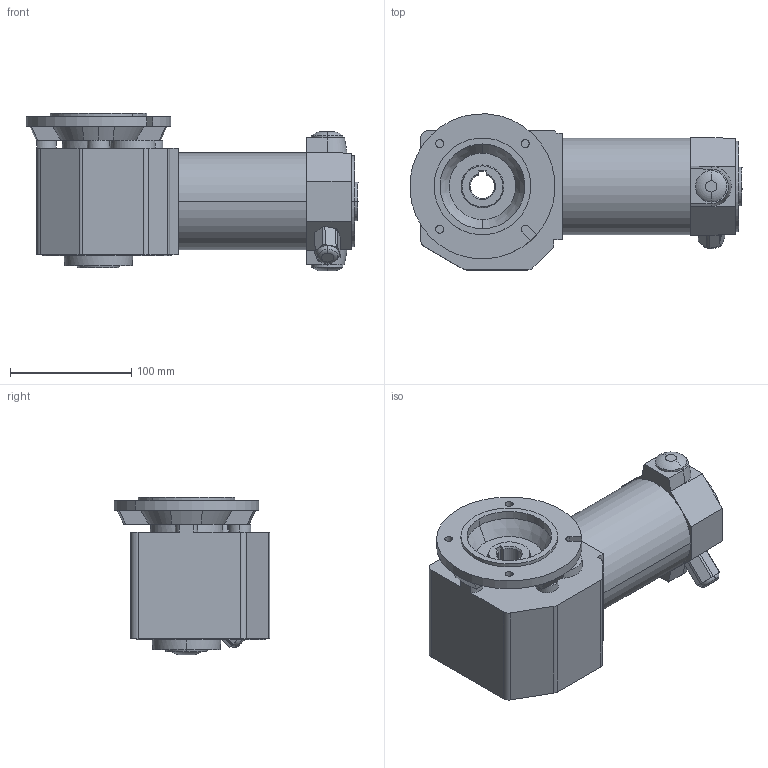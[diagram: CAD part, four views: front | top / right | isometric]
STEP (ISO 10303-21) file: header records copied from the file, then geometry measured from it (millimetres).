
FILE_DESCRIPTION(('OneSpaceDesigner STEP Export'),'2;1');
FILE_NAME('EPG12_ZBF45.stp','2008-07-17T15:47:51',(''),(''),'OneSpace Designer STEP processor (Jan. 2003) for AP214(CD)(Solid Model)','OneSpace Designer 12.01D 09-Jul-2004 (C) CoCreate Software GmbH','');
FILE_SCHEMA(('AUTOMOTIVE_DESIGN_CC2 {1 2 10303 214 -1 1 5 1}'));
Length unit declared in the file: millimetre
Products named in the file (2): EPG12_ZBF45
Assembly tree (1 placements, depth 2):
  EPG12_ZBF45
    EPG12_ZBF45
Bounding box: 274.34 x 128.84 x 130.5 mm (x, y, z)
Volume: 2029567.7 mm3; surface area: 143050.3 mm2
Topology: 1 solids, 1 shells, 154 faces, 401 edges, 262 vertices
Faces by surface type: plane 65, cylinder 42, bspline 21, cone 18, torus 8
Entity records: 14480 total; most frequent: CARTESIAN_POINT 11053, ORIENTED_EDGE 802, DIRECTION 537, EDGE_CURVE 401, VERTEX_POINT 262, EDGE_LOOP 181, AXIS2_PLACEMENT_3D 180, VECTOR 177
